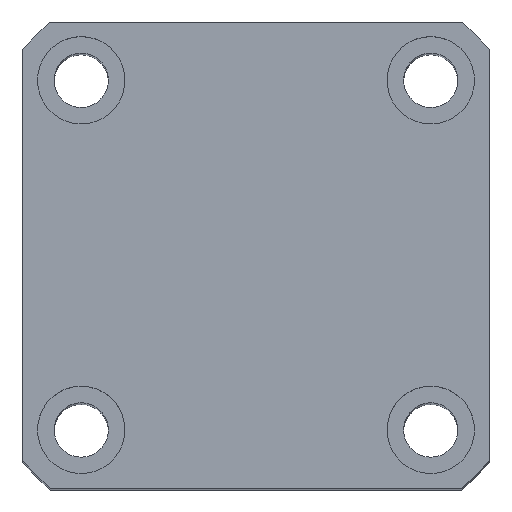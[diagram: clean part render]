
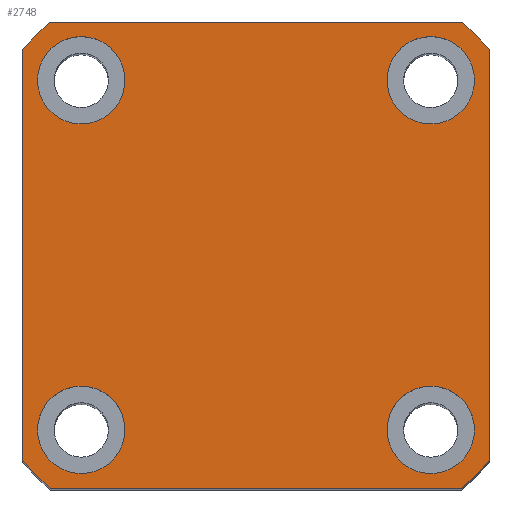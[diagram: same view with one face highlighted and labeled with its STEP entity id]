
A CAD part, top view. The second image highlights one B-rep face of the part: STEP entity #2748.
In plain terms, the highlighted planar face has unit normal (0, 0, 1) as drawn and (1, 0, 0) by its records, which use the part's own axes.
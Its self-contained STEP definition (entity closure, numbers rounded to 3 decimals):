
#6 = FACE_BOUND ( 'NONE', #6010, .T. ) ;
#129 = ORIENTED_EDGE ( 'NONE', *, *, #2854, .F. ) ;
#142 = ORIENTED_EDGE ( 'NONE', *, *, #2227, .F. ) ;
#289 = EDGE_LOOP ( 'NONE', ( #6623, #142 ) ) ;
#378 = VERTEX_POINT ( 'NONE', #2808 ) ;
#394 = EDGE_CURVE ( 'NONE', #7506, #378, #10197, .T. ) ;
#401 = LINE ( 'NONE', #2052, #4571 ) ;
#413 = EDGE_CURVE ( 'NONE', #4810, #8617, #3888, .T. ) ;
#515 = CIRCLE ( 'NONE', #6378, 4.5 ) ;
#570 = DIRECTION ( 'NONE',  ( 1., 0., 0. ) ) ;
#572 = ORIENTED_EDGE ( 'NONE', *, *, #9083, .T. ) ;
#574 = CARTESIAN_POINT ( 'NONE',  ( 110., -24., -21.166 ) ) ;
#601 = DIRECTION ( 'NONE',  ( 1., 0., 0. ) ) ;
#644 = ORIENTED_EDGE ( 'NONE', *, *, #5908, .F. ) ;
#968 = EDGE_CURVE ( 'NONE', #1434, #5572, #9938, .T. ) ;
#1018 = CARTESIAN_POINT ( 'NONE',  ( 110., -18., 22.5 ) ) ;
#1025 = VERTEX_POINT ( 'NONE', #8425 ) ;
#1055 = ORIENTED_EDGE ( 'NONE', *, *, #413, .F. ) ;
#1076 = CARTESIAN_POINT ( 'NONE',  ( 110., 21.166, 24. ) ) ;
#1097 = VECTOR ( 'NONE', #3820, 1000. ) ;
#1434 = VERTEX_POINT ( 'NONE', #574 ) ;
#1439 = VECTOR ( 'NONE', #10548, 1000. ) ;
#1541 = AXIS2_PLACEMENT_3D ( 'NONE', #1714, #1838, #1878 ) ;
#1603 = DIRECTION ( 'NONE',  ( 1., 0., 0. ) ) ;
#1618 = ORIENTED_EDGE ( 'NONE', *, *, #7163, .T. ) ;
#1626 = ORIENTED_EDGE ( 'NONE', *, *, #394, .T. ) ;
#1670 = CARTESIAN_POINT ( 'NONE',  ( 110., 0., 0. ) ) ;
#1714 = CARTESIAN_POINT ( 'NONE',  ( 110., 0., 0. ) ) ;
#1838 = DIRECTION ( 'NONE',  ( 1., 0., 0. ) ) ;
#1878 = DIRECTION ( 'NONE',  ( 0., 0., -1. ) ) ;
#1903 = ORIENTED_EDGE ( 'NONE', *, *, #968, .T. ) ;
#2037 = DIRECTION ( 'NONE',  ( 1., 0., 0. ) ) ;
#2052 = CARTESIAN_POINT ( 'NONE',  ( 110., 24., -24. ) ) ;
#2055 = CARTESIAN_POINT ( 'NONE',  ( 110., 24., -21.166 ) ) ;
#2227 = EDGE_CURVE ( 'NONE', #3992, #9349, #5351, .T. ) ;
#2241 = FACE_BOUND ( 'NONE', #289, .T. ) ;
#2461 = ORIENTED_EDGE ( 'NONE', *, *, #9566, .T. ) ;
#2497 = FACE_BOUND ( 'NONE', #3156, .T. ) ;
#2510 = DIRECTION ( 'NONE',  ( 0., 0., -1. ) ) ;
#2748 = ADVANCED_FACE ( 'NONE', ( #6636, #2497, #2241, #6, #8573 ), #3305, .T. ) ;
#2808 = CARTESIAN_POINT ( 'NONE',  ( 110., -24., 21.166 ) ) ;
#2823 = CARTESIAN_POINT ( 'NONE',  ( 110., 18., 18. ) ) ;
#2854 = EDGE_CURVE ( 'NONE', #1025, #10574, #3928, .T. ) ;
#2946 = EDGE_CURVE ( 'NONE', #9349, #3992, #3131, .T. ) ;
#3131 = CIRCLE ( 'NONE', #9331, 4.5 ) ;
#3156 = EDGE_LOOP ( 'NONE', ( #7665, #5581 ) ) ;
#3246 = DIRECTION ( 'NONE',  ( 0., 0., -1. ) ) ;
#3249 = VERTEX_POINT ( 'NONE', #8230 ) ;
#3290 = DIRECTION ( 'NONE',  ( 1., 0., 0. ) ) ;
#3305 = PLANE ( 'NONE',  #5455 ) ;
#3445 = CARTESIAN_POINT ( 'NONE',  ( 110., -18., -18. ) ) ;
#3493 = AXIS2_PLACEMENT_3D ( 'NONE', #9724, #4796, #10531 ) ;
#3515 = CARTESIAN_POINT ( 'NONE',  ( 110., -21.166, 24. ) ) ;
#3587 = CIRCLE ( 'NONE', #9964, 4.5 ) ;
#3655 = DIRECTION ( 'NONE',  ( 0., 0., -1. ) ) ;
#3683 = VERTEX_POINT ( 'NONE', #9650 ) ;
#3684 = CIRCLE ( 'NONE', #8551, 32. ) ;
#3730 = CARTESIAN_POINT ( 'NONE',  ( 110., 18., -18. ) ) ;
#3820 = DIRECTION ( 'NONE',  ( 0., 0., -1. ) ) ;
#3888 = CIRCLE ( 'NONE', #6396, 4.5 ) ;
#3928 = CIRCLE ( 'NONE', #7678, 4.5 ) ;
#3992 = VERTEX_POINT ( 'NONE', #8043 ) ;
#4008 = DIRECTION ( 'NONE',  ( 1., 0., 0. ) ) ;
#4062 = EDGE_LOOP ( 'NONE', ( #1055, #644 ) ) ;
#4065 = EDGE_CURVE ( 'NONE', #3683, #4382, #515, .T. ) ;
#4076 = DIRECTION ( 'NONE',  ( 0., 0., -1. ) ) ;
#4194 = CIRCLE ( 'NONE', #6903, 4.5 ) ;
#4382 = VERTEX_POINT ( 'NONE', #1018 ) ;
#4423 = EDGE_LOOP ( 'NONE', ( #2461, #8013, #8905, #5422, #572, #1626, #1618, #1903 ) ) ;
#4428 = CARTESIAN_POINT ( 'NONE',  ( 110., 18., 13.5 ) ) ;
#4439 = CARTESIAN_POINT ( 'NONE',  ( 110., 24., 21.166 ) ) ;
#4495 = DIRECTION ( 'NONE',  ( 1., 0., 0. ) ) ;
#4541 = DIRECTION ( 'NONE',  ( 0., 0., -1. ) ) ;
#4571 = VECTOR ( 'NONE', #8655, 1000. ) ;
#4796 = DIRECTION ( 'NONE',  ( 1., 0., 0. ) ) ;
#4800 = VERTEX_POINT ( 'NONE', #4439 ) ;
#4807 = CARTESIAN_POINT ( 'NONE',  ( 110., 0., 0. ) ) ;
#4810 = VERTEX_POINT ( 'NONE', #7758 ) ;
#4971 = DIRECTION ( 'NONE',  ( 0., 0., -1. ) ) ;
#5319 = AXIS2_PLACEMENT_3D ( 'NONE', #6565, #1603, #7394 ) ;
#5351 = CIRCLE ( 'NONE', #5319, 4.5 ) ;
#5422 = ORIENTED_EDGE ( 'NONE', *, *, #6446, .T. ) ;
#5455 = AXIS2_PLACEMENT_3D ( 'NONE', #9080, #9901, #4971 ) ;
#5538 = CARTESIAN_POINT ( 'NONE',  ( 110., -18., 18. ) ) ;
#5572 = VERTEX_POINT ( 'NONE', #6507 ) ;
#5578 = CARTESIAN_POINT ( 'NONE',  ( 110., -18., 18. ) ) ;
#5581 = ORIENTED_EDGE ( 'NONE', *, *, #9002, .F. ) ;
#5620 = CIRCLE ( 'NONE', #3493, 32. ) ;
#5715 = ORIENTED_EDGE ( 'NONE', *, *, #7578, .F. ) ;
#5855 = AXIS2_PLACEMENT_3D ( 'NONE', #4807, #4008, #4076 ) ;
#5867 = LINE ( 'NONE', #10514, #1439 ) ;
#5908 = EDGE_CURVE ( 'NONE', #8617, #4810, #3587, .T. ) ;
#6010 = EDGE_LOOP ( 'NONE', ( #5715, #129 ) ) ;
#6372 = DIRECTION ( 'NONE',  ( 0., 0., -1. ) ) ;
#6378 = AXIS2_PLACEMENT_3D ( 'NONE', #5538, #570, #6372 ) ;
#6396 = AXIS2_PLACEMENT_3D ( 'NONE', #3445, #3290, #3246 ) ;
#6413 = DIRECTION ( 'NONE',  ( 0., 0., -1. ) ) ;
#6446 = EDGE_CURVE ( 'NONE', #4800, #6637, #5620, .T. ) ;
#6507 = CARTESIAN_POINT ( 'NONE',  ( 110., -21.166, -24. ) ) ;
#6565 = CARTESIAN_POINT ( 'NONE',  ( 110., 18., -18. ) ) ;
#6623 = ORIENTED_EDGE ( 'NONE', *, *, #2946, .F. ) ;
#6636 = FACE_BOUND ( 'NONE', #4062, .T. ) ;
#6637 = VERTEX_POINT ( 'NONE', #1076 ) ;
#6903 = AXIS2_PLACEMENT_3D ( 'NONE', #5578, #601, #6413 ) ;
#6968 = CARTESIAN_POINT ( 'NONE',  ( 110., 24., 24. ) ) ;
#6978 = CARTESIAN_POINT ( 'NONE',  ( 110., -18., -18. ) ) ;
#7124 = CARTESIAN_POINT ( 'NONE',  ( 110., -24., 24. ) ) ;
#7156 = VECTOR ( 'NONE', #10266, 1000. ) ;
#7163 = EDGE_CURVE ( 'NONE', #378, #1434, #9854, .T. ) ;
#7394 = DIRECTION ( 'NONE',  ( 0., 0., -1. ) ) ;
#7465 = DIRECTION ( 'NONE',  ( 1., 0., 0. ) ) ;
#7506 = VERTEX_POINT ( 'NONE', #3515 ) ;
#7512 = AXIS2_PLACEMENT_3D ( 'NONE', #9417, #4495, #10240 ) ;
#7578 = EDGE_CURVE ( 'NONE', #10574, #1025, #8943, .T. ) ;
#7665 = ORIENTED_EDGE ( 'NONE', *, *, #4065, .F. ) ;
#7678 = AXIS2_PLACEMENT_3D ( 'NONE', #2823, #8586, #3655 ) ;
#7758 = CARTESIAN_POINT ( 'NONE',  ( 110., -18., -22.5 ) ) ;
#7813 = DIRECTION ( 'NONE',  ( 0., 0., -1. ) ) ;
#8013 = ORIENTED_EDGE ( 'NONE', *, *, #9221, .T. ) ;
#8043 = CARTESIAN_POINT ( 'NONE',  ( 110., 18., -13.5 ) ) ;
#8230 = CARTESIAN_POINT ( 'NONE',  ( 110., 21.166, -24. ) ) ;
#8425 = CARTESIAN_POINT ( 'NONE',  ( 110., 18., 22.5 ) ) ;
#8551 = AXIS2_PLACEMENT_3D ( 'NONE', #1670, #7465, #2510 ) ;
#8573 = FACE_OUTER_BOUND ( 'NONE', #4423, .T. ) ;
#8586 = DIRECTION ( 'NONE',  ( 1., 0., 0. ) ) ;
#8617 = VERTEX_POINT ( 'NONE', #9266 ) ;
#8655 = DIRECTION ( 'NONE',  ( 0., 1., 0. ) ) ;
#8728 = EDGE_CURVE ( 'NONE', #8800, #4800, #9350, .T. ) ;
#8800 = VERTEX_POINT ( 'NONE', #2055 ) ;
#8905 = ORIENTED_EDGE ( 'NONE', *, *, #8728, .T. ) ;
#8943 = CIRCLE ( 'NONE', #7512, 4.5 ) ;
#9002 = EDGE_CURVE ( 'NONE', #4382, #3683, #4194, .T. ) ;
#9080 = CARTESIAN_POINT ( 'NONE',  ( 110., 0., 0. ) ) ;
#9083 = EDGE_CURVE ( 'NONE', #6637, #7506, #5867, .T. ) ;
#9105 = CARTESIAN_POINT ( 'NONE',  ( 110., 18., -22.5 ) ) ;
#9221 = EDGE_CURVE ( 'NONE', #3249, #8800, #3684, .T. ) ;
#9266 = CARTESIAN_POINT ( 'NONE',  ( 110., -18., -13.5 ) ) ;
#9331 = AXIS2_PLACEMENT_3D ( 'NONE', #3730, #9473, #4541 ) ;
#9349 = VERTEX_POINT ( 'NONE', #9105 ) ;
#9350 = LINE ( 'NONE', #6968, #7156 ) ;
#9417 = CARTESIAN_POINT ( 'NONE',  ( 110., 18., 18. ) ) ;
#9473 = DIRECTION ( 'NONE',  ( 1., 0., 0. ) ) ;
#9566 = EDGE_CURVE ( 'NONE', #5572, #3249, #401, .T. ) ;
#9650 = CARTESIAN_POINT ( 'NONE',  ( 110., -18., 13.5 ) ) ;
#9724 = CARTESIAN_POINT ( 'NONE',  ( 110., 0., 0. ) ) ;
#9854 = LINE ( 'NONE', #7124, #1097 ) ;
#9901 = DIRECTION ( 'NONE',  ( 1., 0., 0. ) ) ;
#9938 = CIRCLE ( 'NONE', #1541, 32. ) ;
#9964 = AXIS2_PLACEMENT_3D ( 'NONE', #6978, #2037, #7813 ) ;
#10197 = CIRCLE ( 'NONE', #5855, 32. ) ;
#10240 = DIRECTION ( 'NONE',  ( 0., 0., -1. ) ) ;
#10266 = DIRECTION ( 'NONE',  ( 0., 0., 1. ) ) ;
#10514 = CARTESIAN_POINT ( 'NONE',  ( 110., 24., 24. ) ) ;
#10531 = DIRECTION ( 'NONE',  ( 0., 0., -1. ) ) ;
#10548 = DIRECTION ( 'NONE',  ( 0., -1., 0. ) ) ;
#10574 = VERTEX_POINT ( 'NONE', #4428 ) ;
